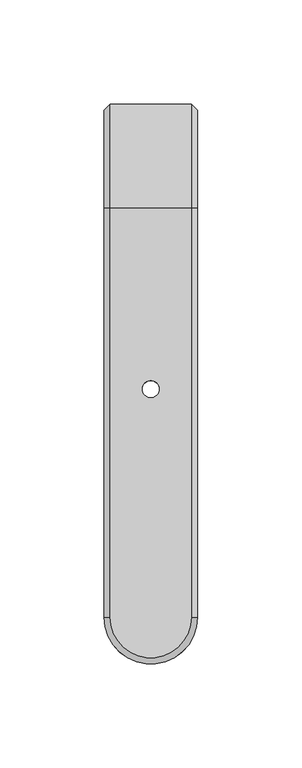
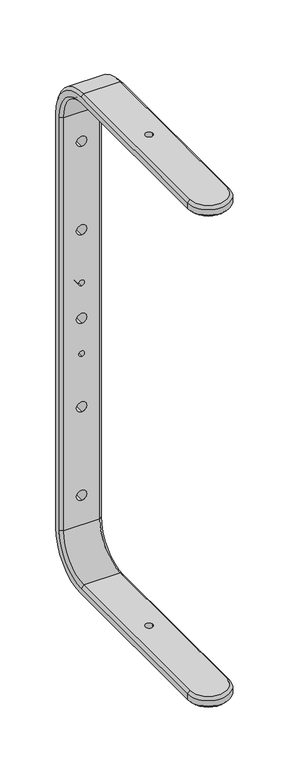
"""IFC4 building model written with IfcOpenShell, lengths in millimetres: proxy geometry, ePS10-HBRK535-WVM : ePS10-HBRK535-WVM."""

import ifcopenshell
import ifcopenshell.guid

model = None  # the IFC model being written
_history = None  # IfcOwnerHistory: only IFC2X3 demands one
_inside = {}  # id of a spatial element -> (the spatial element, [elements in it])
_under = {}  # id of a project, library or spatial element -> (it, [spatial elements below it])
_declared = {}  # id of a project -> (the project, [libraries it declares])
_typed = {}  # id of a type object -> (the type object, [elements of that type])
_made_of = {}  # id of a material, layer set ... -> (it, [elements and type objects made of it])


def new_model(schema):
    """Start an empty IFC model of exactly this schema.

    Asked for "IFC4X3", IfcOpenShell would pick the latest addendum, in which some entities
    have other attributes; the version numbers below select the first issue.
    IFC2X3 requires an IfcOwnerHistory on every rooted entity: one is made here for all.
    """
    global model, _history
    if schema == "IFC4X3":
        model = ifcopenshell.file(schema_version=(4, 3, 0, 0))
    else:
        model = ifcopenshell.file(schema=schema)
    _inside.clear()
    _under.clear()
    _declared.clear()
    _typed.clear()
    _made_of.clear()
    _history = None
    if model.schema == "IFC2X3":
        org = make("IfcOrganization", Name="unknown")
        user = make(
            "IfcPersonAndOrganization",
            ThePerson=make("IfcPerson", FamilyName="unknown"),
            TheOrganization=org,
        )
        app = make(
            "IfcApplication",
            ApplicationDeveloper=org,
            Version="unknown",
            ApplicationFullName="unknown",
            ApplicationIdentifier="unknown",
        )
        _history = make(
            "IfcOwnerHistory",
            OwningUser=user,
            OwningApplication=app,
            ChangeAction="ADDED",
            CreationDate=0,
        )
    return model


def make(cls, **values):
    """One entity of the class cls with the attributes given. An attribute that is None is left unset."""
    return model.create_entity(
        cls, **{name: value for name, value in values.items() if value is not None}
    )


def rooted(cls, **values):
    """An entity with a GlobalId (a new one), such as an element, a storey or a relation."""
    return make(cls, GlobalId=ifcopenshell.guid.new(), OwnerHistory=_history, **values)


def si_unit(unit_type, name, prefix=None):
    """IfcSIUnit, for example si_unit("LENGTHUNIT", "METRE", prefix="MILLI")."""
    return make("IfcSIUnit", UnitType=unit_type, Prefix=prefix, Name=name)


def assignment(units):
    """IfcUnitAssignment: the units of a project."""
    return None if units is None else make("IfcUnitAssignment", Units=units)


def point(xyz):
    """IfcCartesianPoint."""
    return None if xyz is None else make("IfcCartesianPoint", Coordinates=xyz)


def direction(xyz):
    """IfcDirection."""
    return None if xyz is None else make("IfcDirection", DirectionRatios=xyz)


def frame(location, z_axis=None, x_axis=None):
    """IfcAxis2Placement3D, a coordinate frame: its origin and axes. An axis left out is left unset."""
    return make(
        "IfcAxis2Placement3D",
        Location=point(location),
        Axis=direction(z_axis),
        RefDirection=direction(x_axis),
    )


def origin():
    """The frame at (0, 0, 0) with its axes left unset."""
    return frame((0.0, 0.0, 0.0))


def place(relative_to, where):
    """IfcLocalPlacement: puts the frame where relative to a parent placement (None: the world)."""
    return make(
        "IfcLocalPlacement", PlacementRelTo=relative_to, RelativePlacement=where
    )


def context(
    kind, dimensions, precision=None, world=None, true_north=None, identifier=None
):
    """IfcGeometricRepresentationContext, for example the 3D "Model" context."""
    return make(
        "IfcGeometricRepresentationContext",
        ContextIdentifier=identifier,
        ContextType=kind,
        CoordinateSpaceDimension=dimensions,
        Precision=precision,
        WorldCoordinateSystem=world,
        TrueNorth=true_north,
    )


def project(units=None, contexts=None):
    """IfcProject with its units and contexts."""
    return rooted(
        "IfcProject",
        Name="project",
        RepresentationContexts=contexts,
        UnitsInContext=assignment(units),
    )


def spatial(cls, under=None, at=None, **own):
    """A site, building, storey or space (cls), placed at a placement, below another one or the project."""
    s = rooted(cls, ObjectPlacement=at, **own)
    if under is not None:
        _under.setdefault(under.id(), (under, []))[1].append(s)
    return s


def polyline(points):
    """IfcPolyline through the points."""
    return make("IfcPolyline", Points=[point(p) for p in points])


def circle_curve(where, radius):
    """IfcCircle in the frame where."""
    return make("IfcCircle", Position=where, Radius=radius)


def shape(context_of_items, identifier, shape_type, items):
    """IfcShapeRepresentation: the items that make up one representation, for example the "Body"."""
    return make(
        "IfcShapeRepresentation",
        ContextOfItems=context_of_items,
        RepresentationIdentifier=identifier,
        RepresentationType=shape_type,
        Items=items,
    )


def source(mapping_origin, context_of_items, identifier, shape_type, items):
    """IfcRepresentationMap: a shape defined once, which mapped items show again and again."""
    return make(
        "IfcRepresentationMap",
        MappingOrigin=mapping_origin,
        MappedRepresentation=shape(context_of_items, identifier, shape_type, items),
    )


def transform(
    local_origin,
    x_axis=None,
    y_axis=None,
    z_axis=None,
    scale=None,
    scale2=None,
    scale3=None,
    uniform=True,
):
    """IfcCartesianTransformationOperator3D, or its non-uniform kind. x_axis, y_axis, z_axis: its Axis1, 2, 3."""
    if uniform:
        return make(
            "IfcCartesianTransformationOperator3D",
            Axis1=direction(x_axis),
            Axis2=direction(y_axis),
            LocalOrigin=point(local_origin),
            Scale=scale,
            Axis3=direction(z_axis),
        )
    return make(
        "IfcCartesianTransformationOperator3DnonUniform",
        Axis1=direction(x_axis),
        Axis2=direction(y_axis),
        LocalOrigin=point(local_origin),
        Scale=scale,
        Axis3=direction(z_axis),
        Scale2=scale2,
        Scale3=scale3,
    )


def mapped(mapping_source, mapping_target):
    """IfcMappedItem: shows the shape of a source again, moved by a transform."""
    return make(
        "IfcMappedItem", MappingSource=mapping_source, MappingTarget=mapping_target
    )


def made_of(thing, what):
    """Note that an element or type object is made of a material, layer set ...; save() writes the relation."""
    if what is not None:
        _made_of.setdefault(what.id(), (what, []))[1].append(thing)
    return thing


def element(
    cls,
    number,
    at=None,
    inside=None,
    cuts=None,
    type_object=None,
    material=None,
    context=None,
    identifier="Body",
    shape_type=None,
    held_by="IfcProductDefinitionShape",
    body=None,
    shapes=None,
    **own,
):
    """One element of the class cls, such as IfcWall. Its Tag is "e" and its number.

    at: its placement. inside: the storey or other place that contains it. cuts: it is an
    opening in that element (IfcRelVoidsElement). A single representation is given by context,
    identifier, shape_type and body (its items); several are given by shapes. held_by: the class
    of the entity that holds the representations. save() writes the other relations.
    """
    e = rooted(cls, Tag="e%d" % number, ObjectPlacement=at, **own)
    if body is not None:
        shapes = [shape(context, identifier, shape_type, body)]
    if shapes is not None:
        e.Representation = make(held_by, Representations=shapes)
    if inside is not None:
        _inside.setdefault(inside.id(), (inside, []))[1].append(e)
    if cuts is not None:
        rooted(
            "IfcRelVoidsElement", RelatingBuildingElement=cuts, RelatedOpeningElement=e
        )
    if type_object is not None:
        _typed.setdefault(type_object.id(), (type_object, []))[1].append(e)
    return made_of(e, material)


def aggregate(whole, parts):
    """IfcRelAggregates: a whole, such as a stair, and the parts it consists of."""
    return rooted("IfcRelAggregates", RelatingObject=whole, RelatedObjects=parts)


def save(model, path):
    """Write the relations noted so far, then the file.

    IfcRelAggregates (storeys below a building ...), IfcRelContainedInSpatialStructure (elements
    in a storey), IfcRelDefinesByType, IfcRelAssociatesMaterial and IfcRelDeclares: one each for
    every whole, place, type object, material and project.
    """
    for whole, parts in _under.values():
        aggregate(whole, parts)
    for where, things in _inside.values():
        rooted(
            "IfcRelContainedInSpatialStructure",
            RelatedElements=things,
            RelatingStructure=where,
        )
    for kind, things in _typed.values():
        rooted("IfcRelDefinesByType", RelatedObjects=things, RelatingType=kind)
    for what, things in _made_of.values():
        rooted("IfcRelAssociatesMaterial", RelatedObjects=things, RelatingMaterial=what)
    for by, libraries in _declared.values():
        rooted("IfcRelDeclares", RelatingContext=by, RelatedDefinitions=libraries)
    model.write(path)


def plane_surface(at):
    """IfcPlane: the flat surface through the origin of the frame at, square to its z axis."""
    return make("IfcPlane", Position=at)


def cylinder_surface(at, radius):
    """IfcCylindricalSurface: all points at the distance radius from the z axis of the frame at."""
    return make("IfcCylindricalSurface", Position=at, Radius=radius)


def revolved_surface(curve, axis_point, axis_direction):
    """IfcSurfaceOfRevolution: the curve turned about the line through axis_point along axis_direction."""
    return make(
        "IfcSurfaceOfRevolution",
        SweptCurve=make("IfcArbitraryOpenProfileDef", ProfileType="CURVE", Curve=curve),
        AxisPosition=make("IfcAxis1Placement", Location=point(axis_point), Axis=direction(axis_direction)),
    )


def advanced_brep(points, edges, surfaces, faces):
    """IfcAdvancedBrep: a solid bounded by faces that lie on surfaces and meet in shared edges.

    An edge is (start, end): straight between two places in points (the first is 0);
    or (start, end, curve); or (start, end, curve, False) where it runs against its curve.
    A face is (place in surfaces, loops), or (place, loops, False) where it looks against
    its surface's normal. A loop lists edges by number (the first is 1), with a minus sign
    where the edge is run from its end to its start. The first loop is the outer one.
    """
    corners = [point(p) for p in points]
    vertices = [make("IfcVertexPoint", VertexGeometry=c) for c in corners]
    made = []
    for start, end, *more in edges:
        made.append(
            make(
                "IfcEdgeCurve",
                EdgeStart=vertices[start],
                EdgeEnd=vertices[end],
                EdgeGeometry=more[0] if more else make("IfcPolyline", Points=[corners[start], corners[end]]),
                SameSense=more[1] if len(more) > 1 else True,
            )
        )
    hull = []
    for where, loops, *sense in faces:
        bounds = []
        for j, loop in enumerate(loops):
            ring = [make("IfcOrientedEdge", EdgeElement=made[abs(k) - 1], Orientation=k > 0) for k in loop]
            bounds.append(
                make(
                    "IfcFaceOuterBound" if j == 0 else "IfcFaceBound",
                    Bound=make("IfcEdgeLoop", EdgeList=ring),
                    Orientation=True,
                )
            )
        hull.append(make("IfcAdvancedFace", Bounds=bounds, FaceSurface=surfaces[where], SameSense=sense[0] if sense else True))
    return make("IfcAdvancedBrep", Outer=make("IfcClosedShell", CfsFaces=hull))


def generic_models_8c389aa7(model_context):
    return source(origin(), model_context, "Body", "AdvancedBrep", [
        advanced_brep(
        [(19.5718345, -246.5012591, 283.5), (19.5718345, -50.0, 283.5), (-19.5718345, -50.0, 283.5), (-19.5718345, -246.5012591, 283.5), (4.0, -137.0012591, 283.5), (-4.0, -137.0012591, 283.5), (-22.5718345, -50.0, 280.5), (-22.5718345, -246.5012591, 280.5), (-22.5718345, -3.0, 233.5), (-22.5718345, -3.0, -233.5), (-22.5718345, -50.0, -280.5), (-22.5718345, -246.5012591, -280.5), (-22.5718345, -246.5012591, -274.5), (-22.5718345, -50.0, -274.5), (-22.5718345, -9.0, -233.5), (-22.5718345, -9.0, 233.5), (-22.5718345, -50.0, 274.5), (-22.5718345, -246.5012591, 274.5), (-19.5718345, -50.0, 271.5), (-19.5718345, -246.5012591, 271.5), (19.5718345, -50.0, 271.5), (19.5718345, -246.5012591, 271.5), (-4.0, -137.0012591, 271.5), (4.0, -137.0012591, 271.5), (19.5718345, 0.0, 233.5), (-19.5718345, 0.0, 233.5), (-19.5718345, -12.0, 233.5), (19.5718345, -12.0, 233.5), (19.5718345, 0.0, -233.5), (-19.5718345, 0.0, -233.5), (0.0, 0.0, 5.5), (0.0, 0.0, -5.5), (0.0, 0.0, -194.5), (0.0, 0.0, -205.5), (0.0, 0.0, -37.0), (0.0, 0.0, -43.0), (0.0, 0.0, -94.5), (0.0, 0.0, -105.5), (0.0, 0.0, 194.5), (0.0, 0.0, 205.5), (0.0, 0.0, 37.0), (0.0, 0.0, 43.0), (0.0, 0.0, 94.5), (0.0, 0.0, 105.5), (-19.5718345, -12.0, -233.5), (19.5718345, -12.0, -233.5), (0.0, -12.0, -5.5), (0.0, -12.0, 5.5), (0.0, -12.0, -205.5), (0.0, -12.0, -194.5), (0.0, -12.0, -43.0), (0.0, -12.0, -37.0), (0.0, -12.0, -105.5), (0.0, -12.0, -94.5), (0.0, -12.0, 205.5), (0.0, -12.0, 194.5), (0.0, -12.0, 43.0), (0.0, -12.0, 37.0), (0.0, -12.0, 105.5), (0.0, -12.0, 94.5), (19.5718345, -50.0, -283.5), (-19.5718345, -50.0, -283.5), (-19.5718345, -50.0, -271.5), (19.5718345, -50.0, -271.5), (19.5718345, -246.5012591, -283.5), (-19.5718345, -246.5012591, -283.5), (-4.0, -137.0012591, -283.5), (4.0, -137.0012591, -283.5), (-19.5718345, -246.5012591, -271.5), (19.5718345, -246.5012591, -271.5), (4.0, -137.0012591, -271.5), (-4.0, -137.0012591, -271.5), (22.5718345, -50.0, 274.5), (22.5718345, -246.5012591, 274.5), (22.5718345, -9.0, 233.5), (22.5718345, -9.0, -233.5), (22.5718345, -50.0, -274.5), (22.5718345, -246.5012591, -274.5), (22.5718345, -246.5012591, -280.5), (22.5718345, -50.0, -280.5), (22.5718345, -3.0, -233.5), (22.5718345, -3.0, 233.5), (22.5718345, -50.0, 280.5), (22.5718345, -246.5012591, 280.5)],
        [
            (0, 1),
            (1, 2),
            (2, 3),
            (3, 0, circle_curve(frame((0.0, -246.5012591, 283.5), z_axis=(0.0, 0.0, 1.0), x_axis=(-1.0, 0.0, 0.0)), 19.5718345)),
            (4, 5, circle_curve(frame((0.0, -137.0012591, 283.5), z_axis=(0.0, 0.0, -1.0), x_axis=(1.0, 0.0, 0.0)), 4.0)),
            (5, 4, circle_curve(frame((0.0, -137.0012591, 283.5), z_axis=(0.0, 0.0, -1.0), x_axis=(1.0, 0.0, 0.0)), 4.0)),
            (2, 6),
            (6, 7),
            (7, 3),
            (6, 8, circle_curve(frame((-22.5718345, -50.0, 233.5), z_axis=(-1.0, 0.0, 0.0), x_axis=(0.0, 0.0, 1.0)), 47.0)),
            (8, 9),
            (9, 10, circle_curve(frame((-22.5718345, -50.0, -233.5), z_axis=(-1.0, 0.0, 0.0), x_axis=(0.0, 1.0, 0.0)), 47.0)),
            (10, 11),
            (11, 12),
            (12, 13),
            (13, 14, circle_curve(frame((-22.5718345, -50.0, -233.5), z_axis=(1.0, 0.0, 0.0), x_axis=(0.0, 1.0, 0.0)), 41.0)),
            (14, 15),
            (15, 16, circle_curve(frame((-22.5718345, -50.0, 233.5), z_axis=(1.0, 0.0, 0.0), x_axis=(0.0, 0.0, 1.0)), 41.0)),
            (16, 17),
            (17, 7),
            (16, 18),
            (18, 19),
            (19, 17),
            (18, 20),
            (20, 21),
            (21, 19, circle_curve(frame((0.0, -246.5012591, 271.5), z_axis=(0.0, 0.0, -1.0), x_axis=(-1.0, 0.0, 0.0)), 19.5718345)),
            (22, 23, circle_curve(frame((0.0, -137.0012591, 271.5), z_axis=(0.0, 0.0, 1.0), x_axis=(1.0, 0.0, 0.0)), 4.0)),
            (23, 22, circle_curve(frame((0.0, -137.0012591, 271.5), z_axis=(0.0, 0.0, 1.0), x_axis=(1.0, 0.0, 0.0)), 4.0)),
            (1, 24, circle_curve(frame((19.5718345, -50.0, 233.5), z_axis=(-1.0, 0.0, 0.0), x_axis=(0.0, 0.0, 1.0)), 50.0)),
            (24, 25),
            (25, 2, circle_curve(frame((-19.5718345, -50.0, 233.5), z_axis=(1.0, 0.0, 0.0), x_axis=(0.0, 0.0, 1.0)), 50.0)),
            (25, 8),
            (15, 26),
            (26, 18, circle_curve(frame((-19.5718345, -50.0, 233.5), z_axis=(1.0, 0.0, 0.0), x_axis=(0.0, 0.0, 1.0)), 38.0)),
            (26, 27),
            (27, 20, circle_curve(frame((19.5718345, -50.0, 233.5), z_axis=(1.0, 0.0, 0.0), x_axis=(0.0, 0.0, 1.0)), 38.0)),
            (24, 28),
            (28, 29),
            (29, 25),
            (30, 31, circle_curve(frame((0.0, 0.0, 0.0), z_axis=(0.0, -1.0, 0.0), x_axis=(0.0, 0.0, 1.0)), 5.5)),
            (31, 30, circle_curve(frame((0.0, 0.0, 0.0), z_axis=(0.0, -1.0, 0.0), x_axis=(0.0, 0.0, 1.0)), 5.5)),
            (32, 33, circle_curve(frame((0.0, 0.0, -200.0), z_axis=(0.0, -1.0, 0.0), x_axis=(0.0, 0.0, 1.0)), 5.5)),
            (33, 32, circle_curve(frame((0.0, 0.0, -200.0), z_axis=(0.0, -1.0, 0.0), x_axis=(0.0, 0.0, 1.0)), 5.5)),
            (34, 35, circle_curve(frame((0.0, 0.0, -40.0), z_axis=(0.0, -1.0, 0.0), x_axis=(0.0, 0.0, 1.0)), 3.0)),
            (35, 34, circle_curve(frame((0.0, 0.0, -40.0), z_axis=(0.0, -1.0, 0.0), x_axis=(0.0, 0.0, 1.0)), 3.0)),
            (36, 37, circle_curve(frame((0.0, 0.0, -100.0), z_axis=(0.0, -1.0, 0.0), x_axis=(0.0, 0.0, 1.0)), 5.5)),
            (37, 36, circle_curve(frame((0.0, 0.0, -100.0), z_axis=(0.0, -1.0, 0.0), x_axis=(0.0, 0.0, 1.0)), 5.5)),
            (38, 39, circle_curve(frame((0.0, 0.0, 200.0), z_axis=(0.0, -1.0, 0.0), x_axis=(0.0, 0.0, -1.0)), 5.5)),
            (39, 38, circle_curve(frame((0.0, 0.0, 200.0), z_axis=(0.0, -1.0, 0.0), x_axis=(0.0, 0.0, -1.0)), 5.5)),
            (40, 41, circle_curve(frame((0.0, 0.0, 40.0), z_axis=(0.0, -1.0, 0.0), x_axis=(0.0, 0.0, -1.0)), 3.0)),
            (41, 40, circle_curve(frame((0.0, 0.0, 40.0), z_axis=(0.0, -1.0, 0.0), x_axis=(0.0, 0.0, -1.0)), 3.0)),
            (42, 43, circle_curve(frame((0.0, 0.0, 100.0), z_axis=(0.0, -1.0, 0.0), x_axis=(0.0, 0.0, -1.0)), 5.5)),
            (43, 42, circle_curve(frame((0.0, 0.0, 100.0), z_axis=(0.0, -1.0, 0.0), x_axis=(0.0, 0.0, -1.0)), 5.5)),
            (29, 9),
            (14, 44),
            (44, 26),
            (44, 45),
            (45, 27),
            (46, 47, circle_curve(frame((0.0, -12.0, 0.0), z_axis=(0.0, 1.0, 0.0), x_axis=(0.0, 0.0, 1.0)), 5.5)),
            (47, 46, circle_curve(frame((0.0, -12.0, 0.0), z_axis=(0.0, 1.0, 0.0), x_axis=(0.0, 0.0, 1.0)), 5.5)),
            (48, 49, circle_curve(frame((0.0, -12.0, -200.0), z_axis=(0.0, 1.0, 0.0), x_axis=(0.0, 0.0, 1.0)), 5.5)),
            (49, 48, circle_curve(frame((0.0, -12.0, -200.0), z_axis=(0.0, 1.0, 0.0), x_axis=(0.0, 0.0, 1.0)), 5.5)),
            (50, 51, circle_curve(frame((0.0, -12.0, -40.0), z_axis=(0.0, 1.0, 0.0), x_axis=(0.0, 0.0, 1.0)), 3.0)),
            (51, 50, circle_curve(frame((0.0, -12.0, -40.0), z_axis=(0.0, 1.0, 0.0), x_axis=(0.0, 0.0, 1.0)), 3.0)),
            (52, 53, circle_curve(frame((0.0, -12.0, -100.0), z_axis=(0.0, 1.0, 0.0), x_axis=(0.0, 0.0, 1.0)), 5.5)),
            (53, 52, circle_curve(frame((0.0, -12.0, -100.0), z_axis=(0.0, 1.0, 0.0), x_axis=(0.0, 0.0, 1.0)), 5.5)),
            (54, 55, circle_curve(frame((0.0, -12.0, 200.0), z_axis=(0.0, 1.0, 0.0), x_axis=(0.0, 0.0, -1.0)), 5.5)),
            (55, 54, circle_curve(frame((0.0, -12.0, 200.0), z_axis=(0.0, 1.0, 0.0), x_axis=(0.0, 0.0, -1.0)), 5.5)),
            (56, 57, circle_curve(frame((0.0, -12.0, 40.0), z_axis=(0.0, 1.0, 0.0), x_axis=(0.0, 0.0, -1.0)), 3.0)),
            (57, 56, circle_curve(frame((0.0, -12.0, 40.0), z_axis=(0.0, 1.0, 0.0), x_axis=(0.0, 0.0, -1.0)), 3.0)),
            (58, 59, circle_curve(frame((0.0, -12.0, 100.0), z_axis=(0.0, 1.0, 0.0), x_axis=(0.0, 0.0, -1.0)), 5.5)),
            (59, 58, circle_curve(frame((0.0, -12.0, 100.0), z_axis=(0.0, 1.0, 0.0), x_axis=(0.0, 0.0, -1.0)), 5.5)),
            (28, 60, circle_curve(frame((19.5718345, -50.0, -233.5), z_axis=(-1.0, 0.0, 0.0), x_axis=(0.0, 1.0, 0.0)), 50.0)),
            (60, 61),
            (61, 29, circle_curve(frame((-19.5718345, -50.0, -233.5), z_axis=(1.0, 0.0, 0.0), x_axis=(0.0, 1.0, 0.0)), 50.0)),
            (61, 10),
            (13, 62),
            (62, 44, circle_curve(frame((-19.5718345, -50.0, -233.5), z_axis=(1.0, 0.0, 0.0), x_axis=(0.0, 1.0, 0.0)), 38.0)),
            (62, 63),
            (63, 45, circle_curve(frame((19.5718345, -50.0, -233.5), z_axis=(1.0, 0.0, 0.0), x_axis=(0.0, 1.0, 0.0)), 38.0)),
            (60, 64),
            (64, 65, circle_curve(frame((0.0, -246.5012591, -283.5), z_axis=(0.0, 0.0, -1.0), x_axis=(-1.0, 0.0, 0.0)), 19.5718345)),
            (65, 61),
            (66, 67, circle_curve(frame((0.0, -137.0012591, -283.5), z_axis=(0.0, 0.0, 1.0), x_axis=(1.0, 0.0, 0.0)), 4.0)),
            (67, 66, circle_curve(frame((0.0, -137.0012591, -283.5), z_axis=(0.0, 0.0, 1.0), x_axis=(1.0, 0.0, 0.0)), 4.0)),
            (65, 11),
            (12, 68),
            (68, 62),
            (68, 69, circle_curve(frame((0.0, -246.5012591, -271.5), z_axis=(0.0, 0.0, 1.0), x_axis=(-1.0, 0.0, 0.0)), 19.5718345)),
            (69, 63),
            (70, 71, circle_curve(frame((0.0, -137.0012591, -271.5), z_axis=(0.0, 0.0, -1.0), x_axis=(1.0, 0.0, 0.0)), 4.0)),
            (71, 70, circle_curve(frame((0.0, -137.0012591, -271.5), z_axis=(0.0, 0.0, -1.0), x_axis=(1.0, 0.0, 0.0)), 4.0)),
            (20, 72),
            (72, 73),
            (73, 21),
            (72, 74, circle_curve(frame((22.5718345, -50.0, 233.5), z_axis=(-1.0, 0.0, 0.0), x_axis=(0.0, 0.0, 1.0)), 41.0)),
            (74, 75),
            (75, 76, circle_curve(frame((22.5718345, -50.0, -233.5), z_axis=(-1.0, 0.0, 0.0), x_axis=(0.0, 1.0, 0.0)), 41.0)),
            (76, 77),
            (77, 78),
            (78, 79),
            (79, 80, circle_curve(frame((22.5718345, -50.0, -233.5), z_axis=(1.0, 0.0, 0.0), x_axis=(0.0, 1.0, 0.0)), 47.0)),
            (80, 81),
            (81, 82, circle_curve(frame((22.5718345, -50.0, 233.5), z_axis=(1.0, 0.0, 0.0), x_axis=(0.0, 0.0, 1.0)), 47.0)),
            (82, 83),
            (83, 73),
            (0, 83),
            (82, 1),
            (27, 74),
            (81, 24),
            (45, 75),
            (80, 28),
            (63, 76),
            (79, 60),
            (69, 77),
            (78, 64),
            (77, 12, circle_curve(frame((0.0, -246.5012591, -274.5), z_axis=(0.0, 0.0, -1.0), x_axis=(-1.0, 0.0, 0.0)), 22.5718345)),
            (11, 78, circle_curve(frame((0.0, -246.5012591, -280.5), z_axis=(0.0, 0.0, 1.0), x_axis=(-1.0, 0.0, 0.0)), 22.5718345)),
            (83, 7, circle_curve(frame((0.0, -246.5012591, 280.5), z_axis=(0.0, 0.0, -1.0), x_axis=(-1.0, 0.0, 0.0)), 22.5718345)),
            (17, 73, circle_curve(frame((0.0, -246.5012591, 274.5), z_axis=(0.0, 0.0, 1.0), x_axis=(-1.0, 0.0, 0.0)), 22.5718345)),
            (46, 31),
            (30, 47),
            (48, 33),
            (32, 49),
            (50, 35),
            (34, 51),
            (22, 5),
            (4, 23),
            (66, 71),
            (70, 67),
            (52, 37),
            (36, 53),
            (54, 39),
            (38, 55),
            (56, 41),
            (40, 57),
            (58, 43),
            (42, 59),
        ],
        [
            plane_surface(frame((19.5718345, -246.5012591, 283.5), z_axis=(0.0, 0.0, 1.0), x_axis=(0.0, 1.0, 0.0))),
            plane_surface(frame((-19.5718345, -246.5012591, 283.5), z_axis=(-0.7071067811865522, 0.0, 0.7071067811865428), x_axis=(0.0, 1.0, 0.0))),
            plane_surface(frame((-22.5718345, -246.5012591, 280.5), z_axis=(-1.0, 0.0, 0.0), x_axis=(0.0, 1.0, 0.0))),
            plane_surface(frame((-22.5718345, -246.5012591, 274.5), z_axis=(-0.7071067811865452, 0.0, -0.7071067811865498), x_axis=(0.0, 1.0, 0.0))),
            plane_surface(frame((-19.5718345, -246.5012591, 271.5), z_axis=(0.0, 0.0, -1.0), x_axis=(0.0, 1.0, 0.0))),
            cylinder_surface(frame((0.0, -50.0, 233.5), z_axis=(-1.0, 0.0, 0.0), x_axis=(0.0, 0.0, 1.0)), 50.0),
            revolved_surface(polyline([(-19.5718345, -50.0, 283.5), (-22.5718345, -50.0, 280.5)]), (0.0, -50.0, 233.5), (-1.0, 0.0, 0.0)),
            revolved_surface(polyline([(-22.5718345, -50.0, 274.5), (-19.5718345, -50.0, 271.5)]), (0.0, -50.0, 233.5), (-1.0, 0.0, 0.0)),
            revolved_surface(polyline([(-19.5718345, -50.0, 271.5), (19.5718345, -50.0, 271.5)]), (0.0, -50.0, 233.5), (-1.0, 0.0, 0.0)),
            plane_surface(frame((19.5718345, 0.0, 233.5), z_axis=(0.0, 1.0, 0.0), x_axis=(0.0, 0.0, -1.0))),
            plane_surface(frame((-19.5718345, 0.0, 233.5), z_axis=(-0.7071067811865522, 0.7071067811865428, 0.0), x_axis=(0.0, 0.0, -1.0))),
            plane_surface(frame((-22.5718345, -9.0, 233.5), z_axis=(-0.7071067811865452, -0.7071067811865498, 0.0), x_axis=(0.0, 0.0, -1.0))),
            plane_surface(frame((-19.5718345, -12.0, 233.5), z_axis=(0.0, -1.0, 0.0), x_axis=(0.0, 0.0, -1.0))),
            cylinder_surface(frame((0.0, -50.0, -233.5), z_axis=(-1.0, 0.0, 0.0), x_axis=(0.0, 1.0, 0.0)), 50.0),
            revolved_surface(polyline([(-19.5718345, 0.0, -233.5), (-22.5718345, -3.0, -233.5)]), (0.0, -50.0, -233.5), (-1.0, 0.0, 0.0)),
            revolved_surface(polyline([(-22.5718345, -9.0, -233.5), (-19.5718345, -12.0, -233.5)]), (0.0, -50.0, -233.5), (-1.0, 0.0, 0.0)),
            revolved_surface(polyline([(-19.5718345, -12.0, -233.5), (19.5718345, -12.0, -233.5)]), (0.0, -50.0, -233.5), (-1.0, 0.0, 0.0)),
            plane_surface(frame((19.5718345, -50.0, -283.5), z_axis=(0.0, 0.0, -1.0), x_axis=(0.0, -1.0, 0.0))),
            plane_surface(frame((-19.5718345, -50.0, -283.5), z_axis=(-0.7071067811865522, 0.0, -0.7071067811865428), x_axis=(0.0, -1.0, 0.0))),
            plane_surface(frame((-22.5718345, -50.0, -274.5), z_axis=(-0.7071067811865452, 0.0, 0.7071067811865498), x_axis=(0.0, -1.0, 0.0))),
            plane_surface(frame((-19.5718345, -50.0, -271.5), z_axis=(0.0, 0.0, 1.0), x_axis=(0.0, -1.0, 0.0))),
            plane_surface(frame((19.5718345, -246.5012591, 271.5), z_axis=(0.7071067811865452, 0.0, -0.7071067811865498), x_axis=(0.0, 1.0, 0.0))),
            plane_surface(frame((22.5718345, -246.5012591, 274.5), z_axis=(1.0, 0.0, 0.0), x_axis=(0.0, 1.0, 0.0))),
            plane_surface(frame((22.5718345, -246.5012591, 280.5), z_axis=(0.7071067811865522, 0.0, 0.7071067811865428), x_axis=(0.0, 1.0, 0.0))),
            revolved_surface(polyline([(19.5718345, -50.0, 271.5), (22.5718345, -50.0, 274.5)]), (0.0, -50.0, 233.5), (-1.0, 0.0, 0.0)),
            revolved_surface(polyline([(22.5718345, -50.0, 280.5), (19.5718345, -50.0, 283.5)]), (0.0, -50.0, 233.5), (-1.0, 0.0, 0.0)),
            plane_surface(frame((19.5718345, -12.0, 233.5), z_axis=(0.7071067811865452, -0.7071067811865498, 0.0), x_axis=(0.0, 0.0, -1.0))),
            plane_surface(frame((22.5718345, -3.0, 233.5), z_axis=(0.7071067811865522, 0.7071067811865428, 0.0), x_axis=(0.0, 0.0, -1.0))),
            revolved_surface(polyline([(19.5718345, -12.0, -233.5), (22.5718345, -9.0, -233.5)]), (0.0, -50.0, -233.5), (-1.0, 0.0, 0.0)),
            revolved_surface(polyline([(22.5718345, -3.0, -233.5), (19.5718345, 0.0, -233.5)]), (0.0, -50.0, -233.5), (-1.0, 0.0, 0.0)),
            plane_surface(frame((19.5718345, -50.0, -271.5), z_axis=(0.7071067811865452, 0.0, 0.7071067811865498), x_axis=(0.0, -1.0, 0.0))),
            plane_surface(frame((22.5718345, -50.0, -280.5), z_axis=(0.7071067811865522, 0.0, -0.7071067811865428), x_axis=(0.0, -1.0, 0.0))),
            cylinder_surface(frame((0.0, -246.5012591, 1916.0), z_axis=(0.0, 0.0, 1.0), x_axis=(-1.0, 0.0, 0.0)), 22.5718345),
            revolved_surface(polyline([(-22.5718345, -246.5012591, -274.5), (-19.5718345, -246.5012591, -271.5)]), (0.0, -246.5012591, 1916.0), (0.0, 0.0, 1.0)),
            revolved_surface(polyline([(-19.5718345, -246.5012591, -283.5), (-22.5718345, -246.5012591, -280.5)]), (0.0, -246.5012591, 1916.0), (0.0, 0.0, 1.0)),
            cylinder_surface(frame((0.0, -246.5012591, -1916.0), z_axis=(0.0, 0.0, 1.0), x_axis=(-1.0, 0.0, 0.0)), 22.5718345),
            revolved_surface(polyline([(-19.5718345, -246.5012591, 271.5), (-22.5718345, -246.5012591, 274.5)]), (0.0, -246.5012591, -1916.0), (0.0, 0.0, 1.0)),
            revolved_surface(polyline([(-22.5718345, -246.5012591, 280.5), (-19.5718345, -246.5012591, 283.5)]), (0.0, -246.5012591, -1916.0), (0.0, 0.0, 1.0)),
            revolved_surface(polyline([(0.0, 0.0, 5.5), (0.0, -12.0, 5.5)]), (0.0, -20.0, 0.0), (0.0, 1.0, 0.0)),
            revolved_surface(polyline([(0.0, 0.0, -194.5), (0.0, -12.0, -194.5)]), (0.0, 0.0, -200.0), (0.0, 1.0, 0.0)),
            revolved_surface(polyline([(0.0, 0.0, -37.0), (0.0, -12.0, -37.0)]), (0.0, 0.0, -40.0), (0.0, 1.0, 0.0)),
            revolved_surface(polyline([(4.0, -137.0012591, 283.5), (4.0, -137.0012591, 271.5)]), (0.0, -137.0012591, -290.0), (0.0, 0.0, 1.0)),
            revolved_surface(polyline([(4.0, -137.0012591, -271.5), (4.0, -137.0012591, -283.5)]), (0.0, -137.0012591, -290.0), (0.0, 0.0, 1.0)),
            revolved_surface(polyline([(0.0, 0.0, -94.5), (0.0, -12.0, -94.5)]), (0.0, 0.0, -100.0), (0.0, 1.0, 0.0)),
            revolved_surface(polyline([(0.0, 0.0, 194.5), (0.0, -12.0, 194.5)]), (0.0, 0.0, 200.0), (0.0, 1.0, 0.0)),
            revolved_surface(polyline([(0.0, 0.0, 37.0), (0.0, -12.0, 37.0)]), (0.0, 0.0, 40.0), (0.0, 1.0, 0.0)),
            revolved_surface(polyline([(0.0, 0.0, 94.5), (0.0, -12.0, 94.5)]), (0.0, 0.0, 100.0), (0.0, 1.0, 0.0)),
        ],
        [
            (0, [[1, 2, 3, 4], [5, 6]]),
            (1, [[-3, 7, 8, 9]]),
            (2, [[-8, 10, 11, 12, 13, 14, 15, 16, 17, 18, 19, 20]]),
            (3, [[-19, 21, 22, 23]]),
            (4, [[-22, 24, 25, 26], [27, 28]]),
            (5, [[-2, 29, 30, 31]]),
            (6, [[-7, -31, 32, -10]]),
            (7, [[-18, 33, 34, -21]]),
            (8, [[-24, -34, 35, 36]]),
            (9, [[-30, 37, 38, 39], [40, 41], [42, 43], [44, 45], [46, 47], [48, 49], [50, 51], [52, 53]]),
            (10, [[-11, -32, -39, 54]]),
            (11, [[-17, 55, 56, -33]]),
            (12, [[-35, -56, 57, 58], [59, 60], [61, 62], [63, 64], [65, 66], [67, 68], [69, 70], [71, 72]]),
            (13, [[-38, 73, 74, 75]]),
            (14, [[-12, -54, -75, 76]]),
            (15, [[-16, 77, 78, -55]]),
            (16, [[-57, -78, 79, 80]]),
            (17, [[-74, 81, 82, 83], [84, 85]]),
            (18, [[-13, -76, -83, 86]]),
            (19, [[-15, 87, 88, -77]]),
            (20, [[-79, -88, 89, 90], [91, 92]]),
            (21, [[-25, 93, 94, 95]]),
            (22, [[-94, 96, 97, 98, 99, 100, 101, 102, 103, 104, 105, 106]]),
            (23, [[-1, 107, -105, 108]]),
            (24, [[-36, 109, -96, -93]]),
            (25, [[-29, -108, -104, 110]]),
            (26, [[-58, 111, -97, -109]]),
            (27, [[-37, -110, -103, 112]]),
            (28, [[-80, 113, -98, -111]]),
            (29, [[-73, -112, -102, 114]]),
            (30, [[-90, 115, -99, -113]]),
            (31, [[-81, -114, -101, 116]]),
            (32, [[117, -14, 118, -100]]),
            (33, [[-117, -115, -89, -87]]),
            (34, [[-118, -86, -82, -116]]),
            (35, [[119, -20, 120, -106]]),
            (36, [[-120, -23, -26, -95]]),
            (37, [[-119, -107, -4, -9]]),
            (38, [[121, -40, 122, -59]]),
            (38, [[-121, -60, -122, -41]]),
            (39, [[123, -42, 124, -61]]),
            (39, [[-123, -62, -124, -43]]),
            (40, [[125, -44, 126, -63]]),
            (40, [[-125, -64, -126, -45]]),
            (41, [[127, -5, 128, -27]]),
            (42, [[129, -91, 130, -84]]),
            (41, [[-127, -28, -128, -6]]),
            (42, [[-129, -85, -130, -92]]),
            (43, [[131, -46, 132, -65]]),
            (43, [[-131, -66, -132, -47]]),
            (44, [[133, -48, 134, -67]]),
            (44, [[-133, -68, -134, -49]]),
            (45, [[135, -50, 136, -69]]),
            (45, [[-135, -70, -136, -51]]),
            (46, [[137, -52, 138, -71]]),
            (46, [[-137, -72, -138, -53]]),
        ],
    ),
    ])


if __name__ == "__main__":
    model = new_model("IFC4")
    model_context = context("Model", 3, world=origin())
    ifc_project = project(units=[si_unit("LENGTHUNIT", "METRE", prefix="MILLI")], contexts=[model_context])
    site = spatial("IfcSite", under=ifc_project)
    building = spatial("IfcBuilding", under=site)
    placement = place(None, origin())
    generic_models_shape = generic_models_8c389aa7(model_context)
    element("IfcBuildingElementProxy", 1, Name="ePS10-HBRK535-WVM : ePS10-HBRK535-WVM", ObjectType="ePS10-HBRK535-WVM : ePS10-HBRK535-WVM", at=placement, inside=building, context=model_context, shape_type="MappedRepresentation", body=[
        mapped(generic_models_shape, transform((0.0, 0.0, 0.0), x_axis=(1.0, 0.0, 0.0), y_axis=(0.0, 1.0, 0.0), z_axis=(0.0, 0.0, 1.0))),
    ])
    save(model, "model.ifc")
